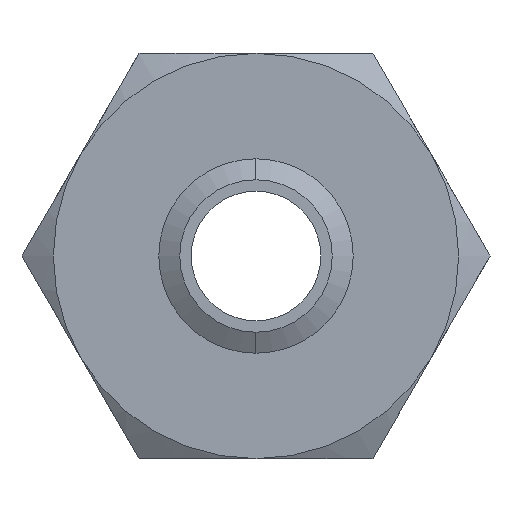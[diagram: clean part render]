
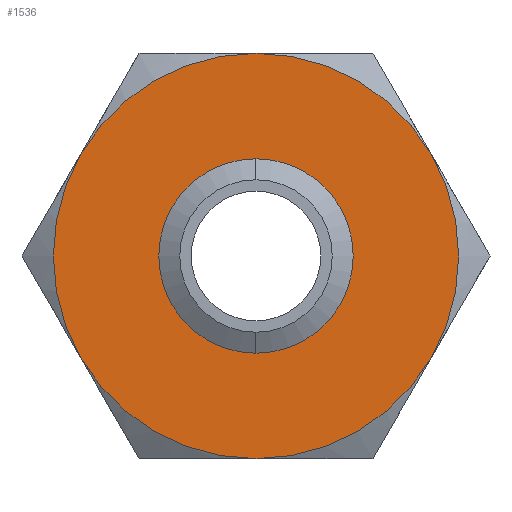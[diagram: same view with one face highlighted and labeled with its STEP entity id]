
A CAD part, front view. The second image highlights one B-rep face of the part: STEP entity #1536.
In plain terms, the highlighted planar face has unit normal (0, -1, 0).
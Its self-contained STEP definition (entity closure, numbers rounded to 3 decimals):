
#139 = EDGE_CURVE ( 'NONE', #1615, #143, #485, .T. ) ;
#143 = VERTEX_POINT ( 'NONE', #480 ) ;
#144 = EDGE_CURVE ( 'NONE', #143, #1551, #478, .T. ) ;
#145 = ORIENTED_EDGE ( 'NONE', *, *, #139, .F. ) ;
#165 = ORIENTED_EDGE ( 'NONE', *, *, #144, .F. ) ;
#476 = CARTESIAN_POINT ( 'NONE',  ( 0., 0., 0. ) ) ;
#477 = AXIS2_PLACEMENT_3D ( 'NONE', #476, #1636, #1634 ) ;
#478 = CIRCLE ( 'NONE', #477, 25. ) ;
#479 = CIRCLE ( 'NONE', #714, 9.402 ) ;
#480 = CARTESIAN_POINT ( 'NONE',  ( 0., 0., -25. ) ) ;
#481 = DIRECTION ( 'NONE',  ( 0., 0., 1. ) ) ;
#482 = DIRECTION ( 'NONE',  ( 0., 1., 0. ) ) ;
#483 = CARTESIAN_POINT ( 'NONE',  ( 0., 0., 0. ) ) ;
#484 = AXIS2_PLACEMENT_3D ( 'NONE', #483, #482, #481 ) ;
#485 = CIRCLE ( 'NONE', #484, 25. ) ;
#713 = CARTESIAN_POINT ( 'NONE',  ( 0., 0., 0. ) ) ;
#714 = AXIS2_PLACEMENT_3D ( 'NONE', #713, #962, #1635 ) ;
#804 = CARTESIAN_POINT ( 'NONE',  ( -21.651, 0., 12.5 ) ) ;
#870 = DIRECTION ( 'NONE',  ( 0., 0., 1. ) ) ;
#871 = DIRECTION ( 'NONE',  ( 0., 1., 0. ) ) ;
#872 = CARTESIAN_POINT ( 'NONE',  ( 14.434, 0., -25. ) ) ;
#873 = AXIS2_PLACEMENT_3D ( 'NONE', #872, #871, #870 ) ;
#874 = PLANE ( 'NONE',  #873 ) ;
#875 = CARTESIAN_POINT ( 'NONE',  ( 0., 0., 25. ) ) ;
#886 = FACE_BOUND ( 'NONE', #1605, .T. ) ;
#887 = FACE_OUTER_BOUND ( 'NONE', #1540, .T. ) ;
#895 = DIRECTION ( 'NONE',  ( 0., 0., 1. ) ) ;
#896 = DIRECTION ( 'NONE',  ( 0., 1., 0. ) ) ;
#897 = CARTESIAN_POINT ( 'NONE',  ( 0., 0., 0. ) ) ;
#898 = AXIS2_PLACEMENT_3D ( 'NONE', #897, #896, #895 ) ;
#908 = CIRCLE ( 'NONE', #898, 25. ) ;
#909 = CARTESIAN_POINT ( 'NONE',  ( -21.651, 0., -12.5 ) ) ;
#911 = DIRECTION ( 'NONE',  ( 0., 0., 1. ) ) ;
#912 = DIRECTION ( 'NONE',  ( 0., 1., 0. ) ) ;
#913 = CARTESIAN_POINT ( 'NONE',  ( 0., 0., 0. ) ) ;
#914 = AXIS2_PLACEMENT_3D ( 'NONE', #913, #912, #911 ) ;
#915 = CIRCLE ( 'NONE', #914, 25. ) ;
#916 = CARTESIAN_POINT ( 'NONE',  ( 21.651, 0., 12.5 ) ) ;
#917 = DIRECTION ( 'NONE',  ( 0., 0., 1. ) ) ;
#918 = DIRECTION ( 'NONE',  ( 0., 1., 0. ) ) ;
#919 = CARTESIAN_POINT ( 'NONE',  ( 0., 0., 0. ) ) ;
#920 = AXIS2_PLACEMENT_3D ( 'NONE', #919, #918, #917 ) ;
#921 = CIRCLE ( 'NONE', #920, 25. ) ;
#962 = DIRECTION ( 'NONE',  ( 0., -1., 0. ) ) ;
#989 = CIRCLE ( 'NONE', #1048, 25. ) ;
#1045 = DIRECTION ( 'NONE',  ( 0., 0., 1. ) ) ;
#1046 = DIRECTION ( 'NONE',  ( 0., 1., 0. ) ) ;
#1047 = CARTESIAN_POINT ( 'NONE',  ( 0., 0., 0. ) ) ;
#1048 = AXIS2_PLACEMENT_3D ( 'NONE', #1047, #1046, #1045 ) ;
#1049 = CARTESIAN_POINT ( 'NONE',  ( 21.651, 0., -12.5 ) ) ;
#1265 = CARTESIAN_POINT ( 'NONE',  ( 0., 0., -9.402 ) ) ;
#1266 = DIRECTION ( 'NONE',  ( 0., 0., -1. ) ) ;
#1267 = DIRECTION ( 'NONE',  ( 0., -1., 0. ) ) ;
#1268 = CARTESIAN_POINT ( 'NONE',  ( 0., 0., 0. ) ) ;
#1269 = AXIS2_PLACEMENT_3D ( 'NONE', #1268, #1267, #1266 ) ;
#1270 = CIRCLE ( 'NONE', #1269, 9.402 ) ;
#1271 = CARTESIAN_POINT ( 'NONE',  ( 0., 0., 9.402 ) ) ;
#1500 = VERTEX_POINT ( 'NONE', #804 ) ;
#1536 = ADVANCED_FACE ( 'NONE', ( #887, #886 ), #874, .F. ) ;
#1538 = VERTEX_POINT ( 'NONE', #875 ) ;
#1540 = EDGE_LOOP ( 'NONE', ( #1541, #1553, #1546, #165, #145, #1613 ) ) ;
#1541 = ORIENTED_EDGE ( 'NONE', *, *, #1552, .F. ) ;
#1545 = EDGE_CURVE ( 'NONE', #1500, #1538, #921, .T. ) ;
#1546 = ORIENTED_EDGE ( 'NONE', *, *, #1547, .F. ) ;
#1547 = EDGE_CURVE ( 'NONE', #1551, #1500, #915, .T. ) ;
#1548 = VERTEX_POINT ( 'NONE', #916 ) ;
#1551 = VERTEX_POINT ( 'NONE', #909 ) ;
#1552 = EDGE_CURVE ( 'NONE', #1538, #1548, #908, .T. ) ;
#1553 = ORIENTED_EDGE ( 'NONE', *, *, #1545, .F. ) ;
#1595 = EDGE_CURVE ( 'NONE', #1936, #1939, #479, .T. ) ;
#1596 = ORIENTED_EDGE ( 'NONE', *, *, #1938, .F. ) ;
#1597 = ORIENTED_EDGE ( 'NONE', *, *, #1595, .F. ) ;
#1605 = EDGE_LOOP ( 'NONE', ( #1596, #1597 ) ) ;
#1613 = ORIENTED_EDGE ( 'NONE', *, *, #1614, .F. ) ;
#1614 = EDGE_CURVE ( 'NONE', #1548, #1615, #989, .T. ) ;
#1615 = VERTEX_POINT ( 'NONE', #1049 ) ;
#1634 = DIRECTION ( 'NONE',  ( 0., 0., 1. ) ) ;
#1635 = DIRECTION ( 'NONE',  ( 0., 0., -1. ) ) ;
#1636 = DIRECTION ( 'NONE',  ( 0., 1., 0. ) ) ;
#1936 = VERTEX_POINT ( 'NONE', #1271 ) ;
#1938 = EDGE_CURVE ( 'NONE', #1939, #1936, #1270, .T. ) ;
#1939 = VERTEX_POINT ( 'NONE', #1265 ) ;
